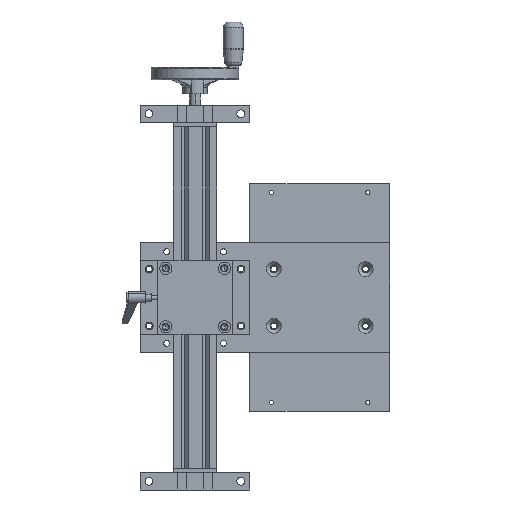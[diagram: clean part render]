
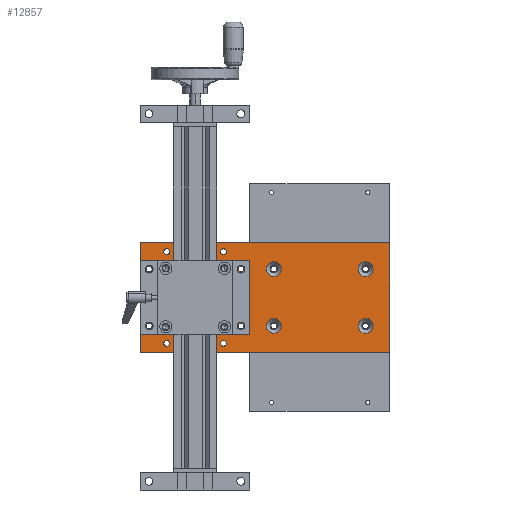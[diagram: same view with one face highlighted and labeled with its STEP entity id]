
A CAD part, front view. The second image highlights one B-rep face of the part: STEP entity #12857.
In plain terms, the highlighted planar face has unit normal (0, -1, 0) as drawn and (0, 0, 1) by its records, which use the part's own axes.
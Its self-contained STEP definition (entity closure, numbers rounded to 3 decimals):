
#2549=PLANE('',#14076);
#3395=VECTOR('',#17082,1.);
#3396=VECTOR('',#17083,1.);
#3397=VECTOR('',#17084,1.);
#3398=VECTOR('',#17085,1.);
#4253=LINE('',#20968,#3395);
#4254=LINE('',#20971,#3396);
#4255=LINE('',#20973,#3397);
#4256=LINE('',#20975,#3398);
#5247=VERTEX_POINT('',#20923);
#5249=VERTEX_POINT('',#20928);
#5251=VERTEX_POINT('',#20933);
#5253=VERTEX_POINT('',#20938);
#5258=VERTEX_POINT('',#20953);
#5259=VERTEX_POINT('',#20955);
#5260=VERTEX_POINT('',#20957);
#5261=VERTEX_POINT('',#20959);
#5262=VERTEX_POINT('',#20961);
#5263=VERTEX_POINT('',#20963);
#5264=VERTEX_POINT('',#20965);
#5265=VERTEX_POINT('',#20967);
#5266=VERTEX_POINT('',#20969);
#5267=VERTEX_POINT('',#20970);
#5268=VERTEX_POINT('',#20972);
#5269=VERTEX_POINT('',#20974);
#5872=CIRCLE('',#14058,0.85);
#5874=CIRCLE('',#14061,0.85);
#5876=CIRCLE('',#14064,0.85);
#5878=CIRCLE('',#14067,0.85);
#5883=CIRCLE('',#14077,0.332);
#5884=CIRCLE('',#14078,0.332);
#5885=CIRCLE('',#14079,0.332);
#5886=CIRCLE('',#14080,0.332);
#5887=CIRCLE('',#14081,0.332);
#5888=CIRCLE('',#14082,0.332);
#5889=CIRCLE('',#14083,0.332);
#5890=CIRCLE('',#14084,0.332);
#7384=EDGE_CURVE('',#5247,#5247,#5872,.T.);
#7386=EDGE_CURVE('',#5249,#5249,#5874,.T.);
#7388=EDGE_CURVE('',#5251,#5251,#5876,.T.);
#7390=EDGE_CURVE('',#5253,#5253,#5878,.T.);
#7395=EDGE_CURVE('',#5258,#5258,#5883,.T.);
#7396=EDGE_CURVE('',#5259,#5259,#5884,.T.);
#7397=EDGE_CURVE('',#5260,#5260,#5885,.T.);
#7398=EDGE_CURVE('',#5261,#5261,#5886,.T.);
#7399=EDGE_CURVE('',#5262,#5262,#5887,.T.);
#7400=EDGE_CURVE('',#5263,#5263,#5888,.T.);
#7401=EDGE_CURVE('',#5264,#5264,#5889,.T.);
#7402=EDGE_CURVE('',#5265,#5265,#5890,.T.);
#7403=EDGE_CURVE('',#5266,#5267,#4253,.T.);
#7404=EDGE_CURVE('',#5268,#5266,#4254,.T.);
#7405=EDGE_CURVE('',#5269,#5268,#4255,.T.);
#7406=EDGE_CURVE('',#5267,#5269,#4256,.T.);
#10395=ORIENTED_EDGE('',*,*,#7395,.T.);
#10396=ORIENTED_EDGE('',*,*,#7396,.T.);
#10397=ORIENTED_EDGE('',*,*,#7397,.T.);
#10398=ORIENTED_EDGE('',*,*,#7398,.T.);
#10399=ORIENTED_EDGE('',*,*,#7399,.T.);
#10400=ORIENTED_EDGE('',*,*,#7400,.T.);
#10401=ORIENTED_EDGE('',*,*,#7401,.T.);
#10402=ORIENTED_EDGE('',*,*,#7402,.T.);
#10403=ORIENTED_EDGE('',*,*,#7403,.F.);
#10404=ORIENTED_EDGE('',*,*,#7404,.F.);
#10405=ORIENTED_EDGE('',*,*,#7405,.F.);
#10406=ORIENTED_EDGE('',*,*,#7406,.F.);
#10407=ORIENTED_EDGE('',*,*,#7390,.F.);
#10408=ORIENTED_EDGE('',*,*,#7388,.F.);
#10409=ORIENTED_EDGE('',*,*,#7386,.F.);
#10410=ORIENTED_EDGE('',*,*,#7384,.F.);
#11300=EDGE_LOOP('',(#10395));
#11301=EDGE_LOOP('',(#10396));
#11302=EDGE_LOOP('',(#10397));
#11303=EDGE_LOOP('',(#10398));
#11304=EDGE_LOOP('',(#10399));
#11305=EDGE_LOOP('',(#10400));
#11306=EDGE_LOOP('',(#10401));
#11307=EDGE_LOOP('',(#10402));
#11308=EDGE_LOOP('',(#10403,#10404,#10405,#10406));
#11309=EDGE_LOOP('',(#10407));
#11310=EDGE_LOOP('',(#10408));
#11311=EDGE_LOOP('',(#10409));
#11312=EDGE_LOOP('',(#10410));
#12169=FACE_BOUND('',#11300,.T.);
#12170=FACE_BOUND('',#11301,.T.);
#12171=FACE_BOUND('',#11302,.T.);
#12172=FACE_BOUND('',#11303,.T.);
#12173=FACE_BOUND('',#11304,.T.);
#12174=FACE_BOUND('',#11305,.T.);
#12175=FACE_BOUND('',#11306,.T.);
#12176=FACE_BOUND('',#11307,.T.);
#12177=FACE_BOUND('',#11308,.T.);
#12178=FACE_BOUND('',#11309,.T.);
#12179=FACE_BOUND('',#11310,.T.);
#12180=FACE_BOUND('',#11311,.T.);
#12181=FACE_BOUND('',#11312,.T.);
#12857=ADVANCED_FACE('',(#12169,#12170,#12171,#12172,#12173,#12174,#12175,
#12176,#12177,#12178,#12179,#12180,#12181),#2549,.T.);
#14058=AXIS2_PLACEMENT_3D('',#20922,#17029,#17030);
#14061=AXIS2_PLACEMENT_3D('',#20927,#17035,#17036);
#14064=AXIS2_PLACEMENT_3D('',#20932,#17041,#17042);
#14067=AXIS2_PLACEMENT_3D('',#20937,#17047,#17048);
#14076=AXIS2_PLACEMENT_3D('',#20951,#17065,$);
#14077=AXIS2_PLACEMENT_3D('',#20952,#17066,#17067);
#14078=AXIS2_PLACEMENT_3D('',#20954,#17068,#17069);
#14079=AXIS2_PLACEMENT_3D('',#20956,#17070,#17071);
#14080=AXIS2_PLACEMENT_3D('',#20958,#17072,#17073);
#14081=AXIS2_PLACEMENT_3D('',#20960,#17074,#17075);
#14082=AXIS2_PLACEMENT_3D('',#20962,#17076,#17077);
#14083=AXIS2_PLACEMENT_3D('',#20964,#17078,#17079);
#14084=AXIS2_PLACEMENT_3D('',#20966,#17080,#17081);
#17029=DIRECTION('',(0.,0.,1.));
#17030=DIRECTION('',(-0.85,0.,0.));
#17035=DIRECTION('',(0.,0.,1.));
#17036=DIRECTION('',(-0.85,0.,0.));
#17041=DIRECTION('',(0.,0.,1.));
#17042=DIRECTION('',(-0.85,0.,0.));
#17047=DIRECTION('',(0.,0.,1.));
#17048=DIRECTION('',(-0.85,0.,0.));
#17065=DIRECTION('',(0.,0.,1.));
#17066=DIRECTION('',(0.,0.,-1.));
#17067=DIRECTION('',(0.,0.332,0.));
#17068=DIRECTION('',(0.,0.,-1.));
#17069=DIRECTION('',(0.,0.332,0.));
#17070=DIRECTION('',(0.,0.,-1.));
#17071=DIRECTION('',(0.,0.332,0.));
#17072=DIRECTION('',(0.,0.,-1.));
#17073=DIRECTION('',(0.,0.332,0.));
#17074=DIRECTION('',(0.,0.,-1.));
#17075=DIRECTION('',(0.,0.332,0.));
#17076=DIRECTION('',(0.,0.,-1.));
#17077=DIRECTION('',(0.,0.332,0.));
#17078=DIRECTION('',(0.,0.,-1.));
#17079=DIRECTION('',(0.,0.332,0.));
#17080=DIRECTION('',(0.,0.,-1.));
#17081=DIRECTION('',(0.,0.332,0.));
#17082=DIRECTION('',(1.,0.,0.));
#17083=DIRECTION('',(0.,1.,0.));
#17084=DIRECTION('',(-1.,0.,0.));
#17085=DIRECTION('',(0.,-1.,0.));
#20922=CARTESIAN_POINT('',(-3.25,-1.,0.6));
#20923=CARTESIAN_POINT('',(-2.4,-1.,0.6));
#20927=CARTESIAN_POINT('',(3.25,-1.,0.6));
#20928=CARTESIAN_POINT('',(4.1,-1.,0.6));
#20932=CARTESIAN_POINT('',(-3.25,-11.5,0.6));
#20933=CARTESIAN_POINT('',(-2.4,-11.5,0.6));
#20937=CARTESIAN_POINT('',(3.25,-11.5,0.6));
#20938=CARTESIAN_POINT('',(4.1,-11.5,0.6));
#20951=CARTESIAN_POINT('',(0.,0.,0.6));
#20952=CARTESIAN_POINT('',(3.25,2.75,0.6));
#20953=CARTESIAN_POINT('',(3.25,3.082,0.6));
#20954=CARTESIAN_POINT('',(5.25,4.75,0.6));
#20955=CARTESIAN_POINT('',(5.25,5.082,0.6));
#20956=CARTESIAN_POINT('',(5.25,11.25,0.6));
#20957=CARTESIAN_POINT('',(5.25,11.582,0.6));
#20958=CARTESIAN_POINT('',(3.25,13.25,0.6));
#20959=CARTESIAN_POINT('',(3.25,13.582,0.6));
#20960=CARTESIAN_POINT('',(-3.25,2.75,0.6));
#20961=CARTESIAN_POINT('',(-3.25,3.082,0.6));
#20962=CARTESIAN_POINT('',(-5.25,4.75,0.6));
#20963=CARTESIAN_POINT('',(-5.25,5.082,0.6));
#20964=CARTESIAN_POINT('',(-5.25,11.25,0.6));
#20965=CARTESIAN_POINT('',(-5.25,11.582,0.6));
#20966=CARTESIAN_POINT('',(-3.25,13.25,0.6));
#20967=CARTESIAN_POINT('',(-3.25,13.582,0.6));
#20968=CARTESIAN_POINT('',(6.25,14.25,0.6));
#20969=CARTESIAN_POINT('',(-6.25,14.25,0.6));
#20970=CARTESIAN_POINT('',(6.25,14.25,0.6));
#20971=CARTESIAN_POINT('',(-6.25,14.25,0.6));
#20972=CARTESIAN_POINT('',(-6.25,-14.25,0.6));
#20973=CARTESIAN_POINT('',(-6.25,-14.25,0.6));
#20974=CARTESIAN_POINT('',(6.25,-14.25,0.6));
#20975=CARTESIAN_POINT('',(6.25,-14.25,0.6));
